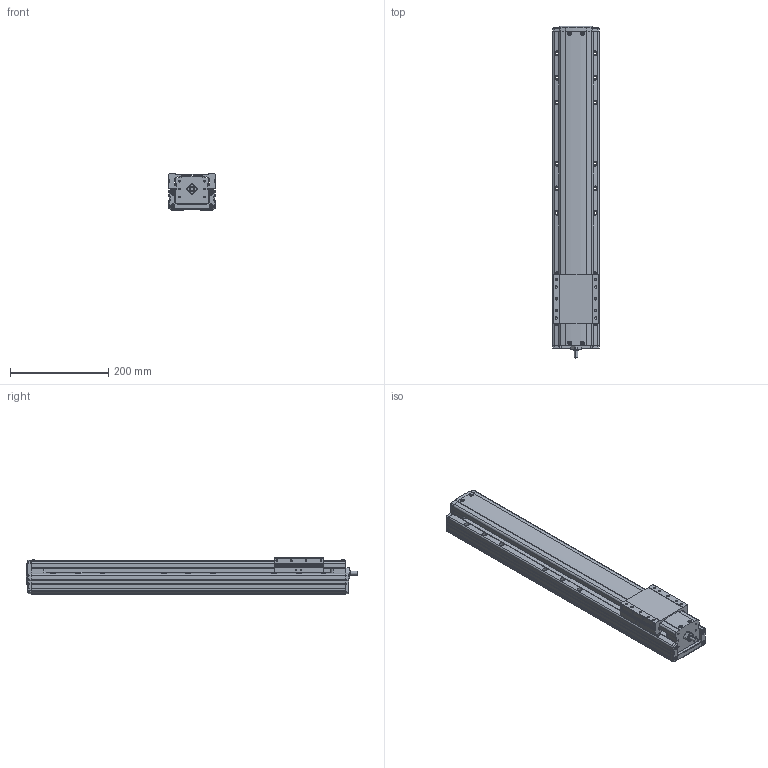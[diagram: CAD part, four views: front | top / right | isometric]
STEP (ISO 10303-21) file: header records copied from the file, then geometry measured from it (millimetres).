
FILE_DESCRIPTION(('STEP AP214'),'1');
FILE_NAME('Z:/Web/3D/PSA95/STP/PSA95-450 (3D)/PSA95ㅁㅁ-450.stp','2014-07-03T00:21:41',(' '),(' '),'Spatial InterOp 3D',' ',' ');
FILE_SCHEMA(('automotive_design'));
Length unit declared in the file: millimetre
Products named in the file (18): BASE; RRCV; 스크루 : Round - M4.0 x 10.0; 너트 : Square - M10.0 x 220.7419; RR1500; FRCV-090; 스크루 : Round - M4.0 x 6.0; SLBL-PA90
Bounding box: 95 x 676 x 74 mm (x, y, z)
Volume: 3540673.3 mm3; surface area: 368028.1 mm2
Topology: 18 solids, 18 shells, 1791 faces, 4842 edges, 3090 vertices
Faces by surface type: plane 1007, cylinder 543, cone 173, sphere 30, bspline 24, torus 14
Entity records: 72571 total; most frequent: CARTESIAN_POINT 12712, ORIENTED_EDGE 9452, DIRECTION 9418, EDGE_CURVE 4726, LINE 3278, VECTOR 3278, VERTEX_POINT 3090, AXIS2_PLACEMENT_3D 3070
